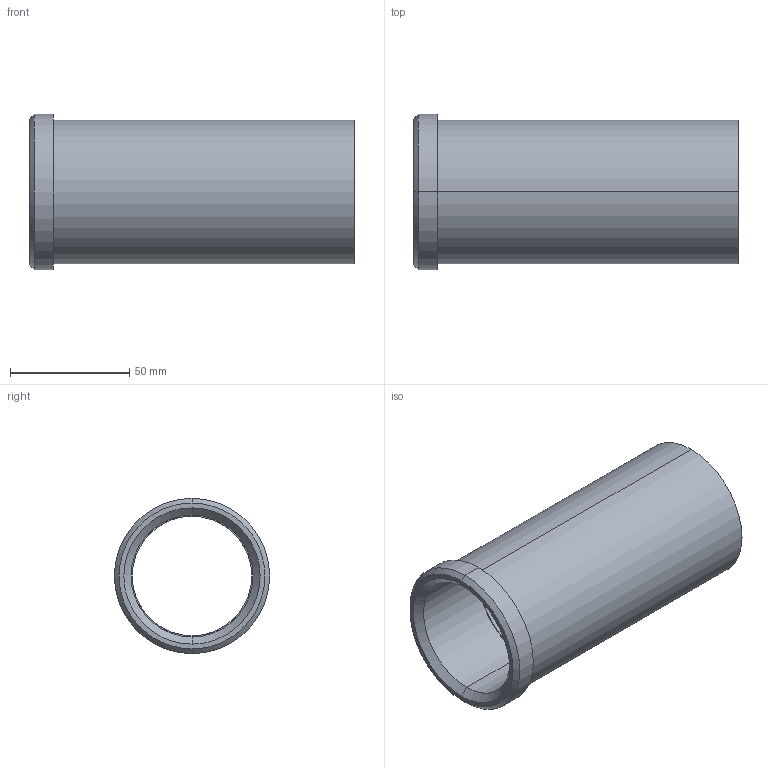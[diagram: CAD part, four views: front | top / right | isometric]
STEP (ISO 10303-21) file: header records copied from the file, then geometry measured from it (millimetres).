
FILE_DESCRIPTION(('CATIA V5 STEP Exchange'),'2;1');
FILE_NAME('C:\Users\Utente\Desktop\IO LAVORO\3D X SITO CF\X SITO\PLASTICA\353\353-50X136.stp','2021-05-14T13:17:49+00:00',('none'),('none'),'CATIA Version 5 Release 20 GA (IN-10)','CATIA V5 STEP AP203','none');
FILE_SCHEMA(('CONFIG_CONTROL_DESIGN'));
Length unit declared in the file: millimetre
Products named in the file (1): 353-50X136
Bounding box: 136 x 65 x 65 mm (x, y, z)
Volume: 118262 mm3; surface area: 49330.7 mm2
Topology: 1 solids, 1 shells, 18 faces, 58 edges, 44 vertices
Faces by surface type: cylinder 8, plane 4, cone 4, torus 2
Entity records: 840 total; most frequent: CARTESIAN_POINT 289, ORIENTED_EDGE 116, DIRECTION 82, EDGE_CURVE 58, AXIS2_PLACEMENT_3D 53, VERTEX_POINT 44, CIRCLE 34, EDGE_LOOP 22
